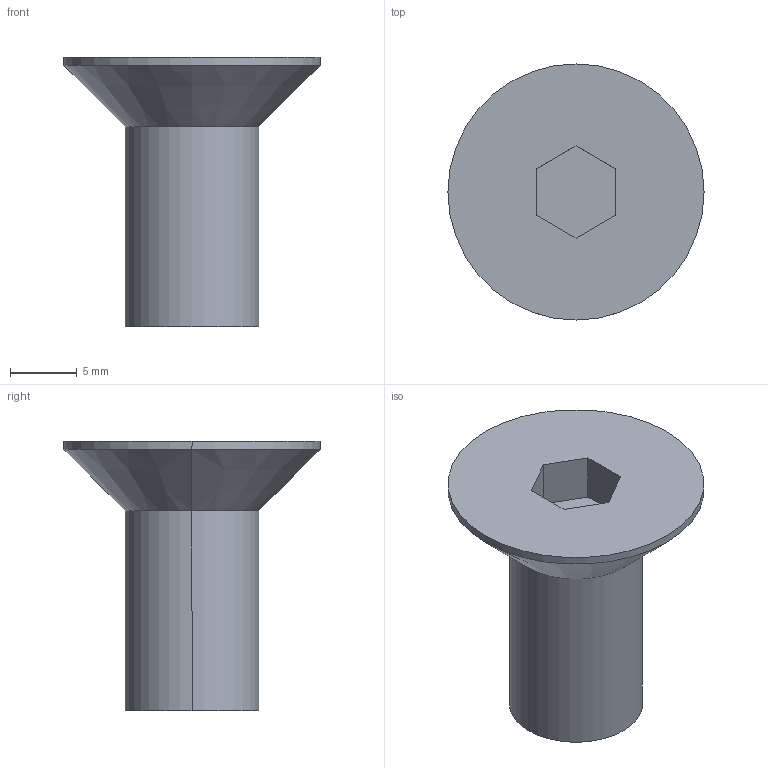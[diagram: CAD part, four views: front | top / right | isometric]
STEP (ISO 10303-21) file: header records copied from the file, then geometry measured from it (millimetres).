
FILE_DESCRIPTION (( 'STEP AP214' ), '1' );
FILE_NAME ('COUNTERSHUNK_HEAD_BOLT_M10(L=015).STEP', '2021-09-18T10:20:06', ( '' ), ( '' ), 'SwSTEP 2.0', 'SolidWorks 2018', '' );
FILE_SCHEMA (( 'AUTOMOTIVE_DESIGN' ));
Length unit declared in the file: millimetre
Products named in the file (1): COUNTERSHUNK_HEAD_BOLT_M10(L=015)
Bounding box: 19.22 x 19.22 x 20.22 mm (x, y, z)
Volume: 2041.3 mm3; surface area: 1250.8 mm2
Topology: 1 solids, 1 shells, 15 faces, 32 edges, 20 vertices
Faces by surface type: plane 9, cylinder 4, cone 2
Entity records: 436 total; most frequent: DIRECTION 72, CARTESIAN_POINT 68, ORIENTED_EDGE 64, EDGE_CURVE 32, AXIS2_PLACEMENT_3D 24, LINE 24, VECTOR 24, VERTEX_POINT 20
